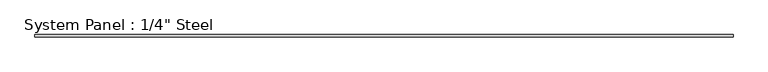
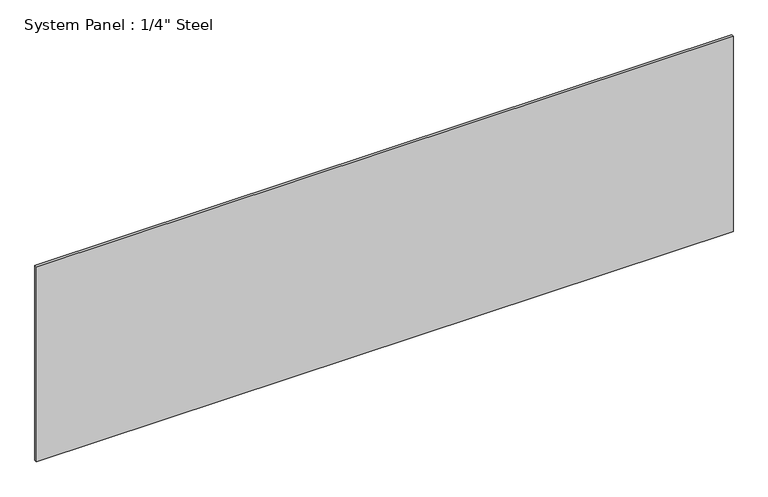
"""IFC4 building model written with IfcOpenShell, lengths in millimetres: plate geometry."""

from ifc_helpers import new_model, si_unit, origin, origin_with_axes, place, context, project, spatial, polyline, outline, extrude, source, transform, mapped, element, save


def plate_097b6727(model_context):
    return source(origin(), model_context, "Body", "SweptSolid", [
        extrude(outline(polyline([(900.2905424, -3.175), (-900.2905424, -3.175), (-900.2905424, 3.175), (900.2905424, 3.175), (900.2905424, -3.175)])), origin_with_axes(), (0.0, 0.0, 1.0), 533.4),
    ])


if __name__ == "__main__":
    model = new_model("IFC4")
    model_context = context("Model", 3, world=origin())
    ifc_project = project(units=[si_unit("LENGTHUNIT", "METRE", prefix="MILLI")], contexts=[model_context])
    site = spatial("IfcSite", under=ifc_project)
    building = spatial("IfcBuilding", under=site)
    placement = place(None, origin())
    plate_shape = plate_097b6727(model_context)
    element("IfcPlate", 1, ObjectType="System Panel : 1/4\" Steel", at=placement, inside=building, context=model_context, shape_type="MappedRepresentation", body=[
        mapped(plate_shape, transform((0.0, 0.0, 0.0), x_axis=(1.0, 0.0, 0.0), y_axis=(0.0, 1.0, 0.0), z_axis=(0.0, 0.0, 1.0))),
    ])
    save(model, "model.ifc")
